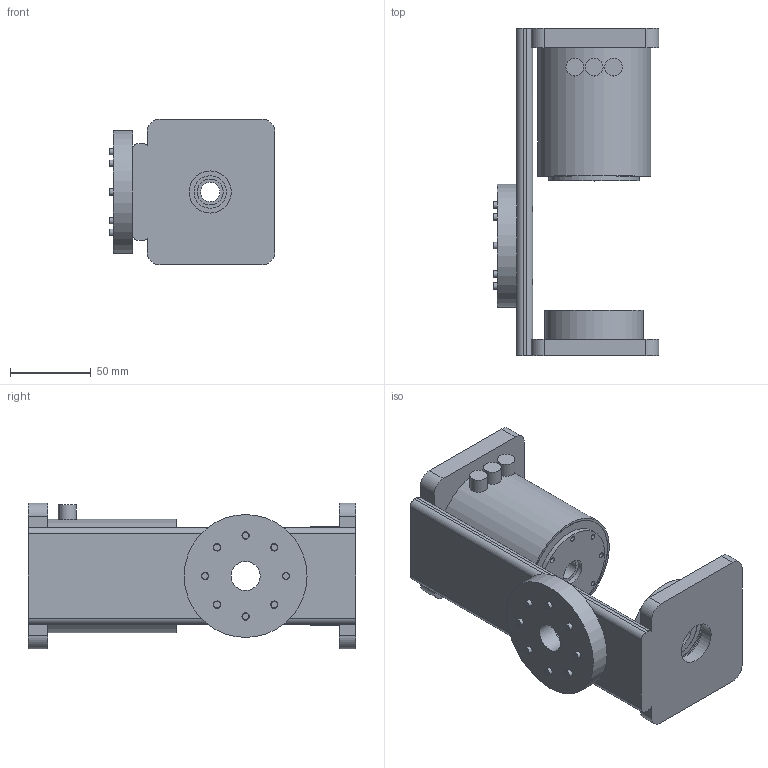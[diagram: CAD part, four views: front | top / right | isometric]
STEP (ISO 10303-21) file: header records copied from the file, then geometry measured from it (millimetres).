
FILE_DESCRIPTION(('Open CASCADE Model'),'2;1');
FILE_NAME('Open CASCADE Shape Model','2026-10-17T21:01:27',('Author'),( 'Open CASCADE'),'Open CASCADE STEP processor 7.9','Open CASCADE 7.9' ,'Unknown');
FILE_SCHEMA(('AUTOMOTIVE_DESIGN { 1 0 10303 214 1 1 1 1 }'));
Length unit declared in the file: millimetre
Products named in the file (13): ARM_L4_FORK; fork_hub_disc; J4_flange_screws_M4; wrist_fork; fork_to_disc_screws_M5; J5_body_screws_M4; idler_bearing_6204_outer; idler_bearing_6204_inner; idler_bearing_6204_seal; idler_snap_ring; J5_actuator_body; J5_actuator_output_flange; J5_actuator_connectors
Assembly tree (12 placements, depth 2):
  ARM_L4_FORK
    fork_hub_disc
    J4_flange_screws_M4
    wrist_fork
    fork_to_disc_screws_M5
    J5_body_screws_M4
    idler_bearing_6204_outer
    idler_bearing_6204_inner
    idler_bearing_6204_seal
    idler_snap_ring
    J5_actuator_body
    J5_actuator_output_flange
    J5_actuator_connectors
Bounding box: 102.5 x 202.3 x 90 mm (x, y, z)
Volume: 652538.5 mm3; surface area: 146926.2 mm2
Topology: 31 solids, 31 shells, 424 faces, 867 edges, 578 vertices
Faces by surface type: plane 279, cylinder 145
Full cylindrical faces by diameter (mm): 3.3 x24, 4 x16, 4.2 x4, 4.5 x16, 5 x4, 5.5 x4, 7 x16, 7.6 x16, 8.5 x4, 9.1 x4, 11 x3, 12 x2, 16 x1, 18 x2, 20 x1, 24 x1, 26 x1, 29.72 x2, 37.28 x2, 40 x1, 47 x2, 47.05 x1, 56 x1, 61 x1, 67 x2, 70 x1, 76 x1
Entity records: 23408 total; most frequent: CARTESIAN_POINT 4190, DIRECTION 3685, LINE 1963, VECTOR 1963, ORIENTED_EDGE 1734, PCURVE 1734, DEFINITIONAL_REPRESENTATION 1734, EDGE_CURVE 867
